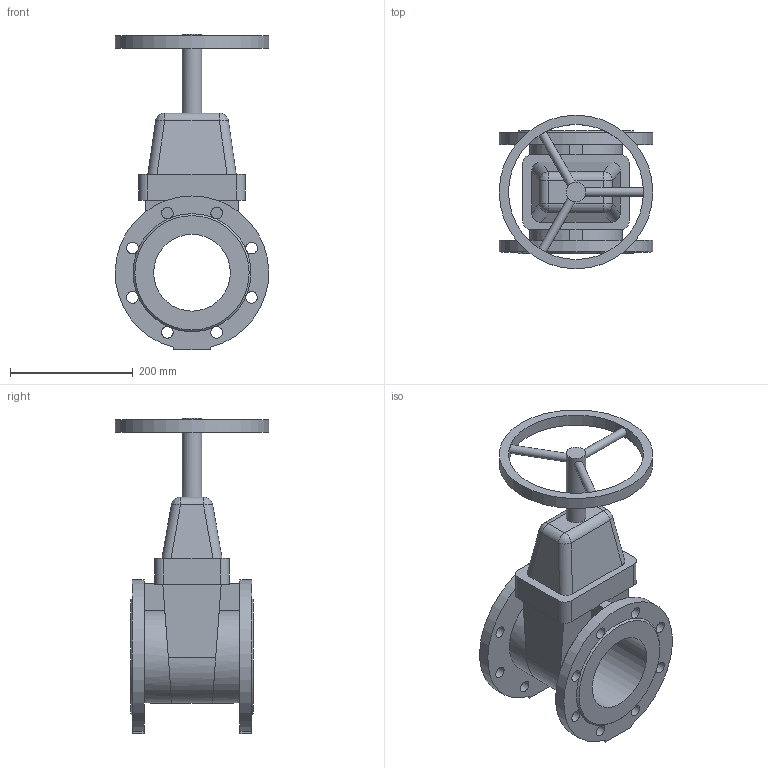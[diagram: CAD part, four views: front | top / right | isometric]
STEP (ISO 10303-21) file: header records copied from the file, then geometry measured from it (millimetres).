
FILE_DESCRIPTION(('STEP AP203'), '1');
FILE_NAME('Çàäâèæêà 47GV DN125 PN10_PN16_L200 ñ ìàõîâèêîì', '', ('UNSPECIFIED'), ('UNSPECIFIED'), 'ASCON STEP Converter 1.6', 'ASCON Math Kernel', '');
FILE_SCHEMA(('CONFIG_CONTROL_DESIGN'));
Length unit declared in the file: millimetre
Bounding box: 250 x 250 x 513 mm (x, y, z)
Volume: 5424935.2 mm3; surface area: 508357.5 mm2
Topology: 1 solids, 1 shells, 108 faces, 319 edges, 204 vertices
Faces by surface type: plane 54, cylinder 48, bspline 4, cone 2
Full cylindrical faces by diameter (mm): 14 x3, 19 x16, 32 x1, 125 x1, 220 x1, 250 x1
Entity records: 5935 total; most frequent: CARTESIAN_POINT 2193, ORIENTED_EDGE 580, DIRECTION 578, EDGE_CURVE 290, AXIS2_PLACEMENT_3D 221, VERTEX_POINT 204, EDGE_LOOP 168, FACE_BOUND 136
